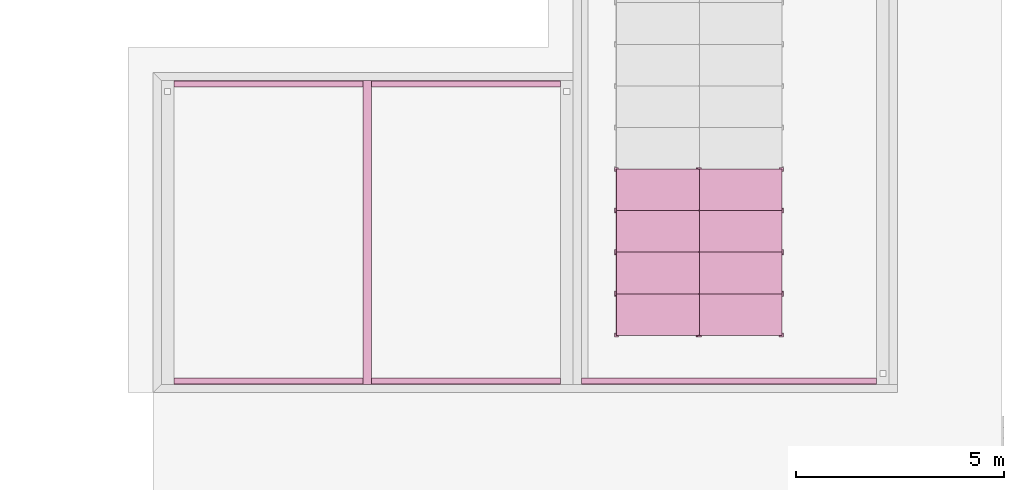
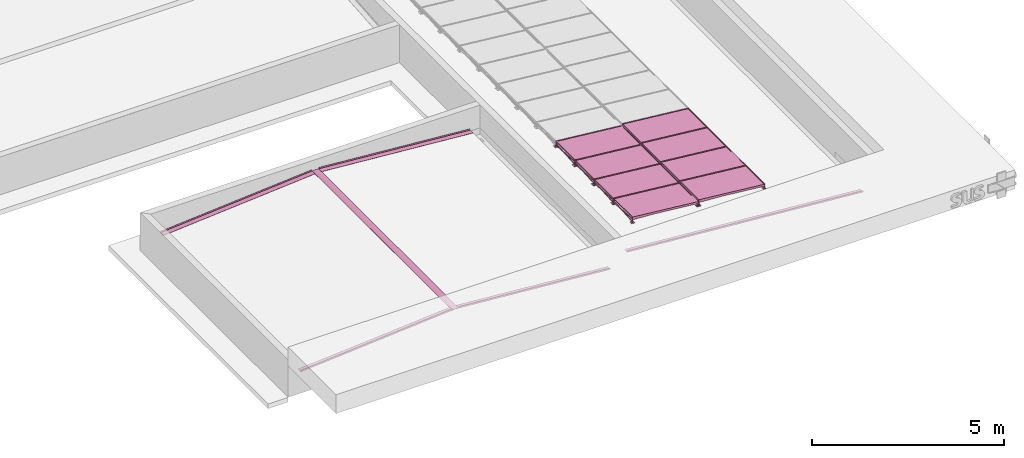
# One storey, part 3 of 5: 14 furnishings.
"""IFC2X3 building model written with IfcOpenShell, lengths in millimetres."""

from ifc_helpers import new_model, entity, si_unit, converted_unit, derived_unit, money_unit, direction, frame, origin_with_axes, place, context, subcontext, project, spatial, polyline, outline, extrude, clip, halfspace, open_shell, faceted_brep, surface_model, source, transform, mapped, material, type_object, element, save


model = new_model("IFC2X3")

# Units and contexts
model_context = context("Model", 3, precision=0.01, world=origin_with_axes(), true_north=direction((0.0, 1.0)))
body_context = subcontext(model_context, "Body", "Model", "MODEL_VIEW")
ifc_project = project(units=[si_unit("LENGTHUNIT", "METRE", prefix="MILLI"), si_unit("AREAUNIT", "SQUARE_METRE"), si_unit("VOLUMEUNIT", "CUBIC_METRE"), converted_unit("PLANEANGLEUNIT", "DEGREE", entity("IfcPlaneAngleMeasure", 0.0174532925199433), si_unit("PLANEANGLEUNIT", "RADIAN"), dimensions=[0, 0, 0, 0, 0, 0, 0]), money_unit("USD"), converted_unit("TIMEUNIT", "Year", entity("IfcTimeMeasure", 31556926.0), si_unit("TIMEUNIT", "SECOND"), dimensions=[0, 0, 1, 0, 0, 0, 0]), si_unit("MASSUNIT", "GRAM", prefix="KILO"), si_unit("THERMODYNAMICTEMPERATUREUNIT", "DEGREE_CELSIUS"), si_unit("LUMINOUSINTENSITYUNIT", "LUMEN"), si_unit("ENERGYUNIT", "JOULE", prefix="MEGA"), derived_unit("THERMALCONDUCTANCEUNIT", [(si_unit("POWERUNIT", "WATT"), 1), (si_unit("LENGTHUNIT", "METRE"), -1), (si_unit("THERMODYNAMICTEMPERATUREUNIT", "KELVIN"), -1)]), derived_unit("SPECIFICHEATCAPACITYUNIT", [(si_unit("ENERGYUNIT", "JOULE"), 1), (si_unit("MASSUNIT", "GRAM", prefix="KILO"), -1), (si_unit("THERMODYNAMICTEMPERATUREUNIT", "KELVIN"), -1)]), derived_unit("MASSDENSITYUNIT", [(si_unit("MASSUNIT", "GRAM", prefix="KILO"), 1), (si_unit("VOLUMEUNIT", "CUBIC_METRE"), -1)])], contexts=[model_context])

# Site, building, storey
site_placement = place(None, origin_with_axes())
site = spatial("IfcSite", under=ifc_project, at=site_placement, Name="Site", CompositionType="ELEMENT")
building_placement = place(site_placement, origin_with_axes())
building = spatial("IfcBuilding", under=site, at=building_placement, Name="Building", CompositionType="ELEMENT")
storey_placement = place(building_placement, frame((0.0, 0.0, 3650.0), z_axis=(0.0, 0.0, 1.0), x_axis=(1.0, 0.0, 0.0)))
storey = spatial("IfcBuildingStorey", under=building, at=storey_placement, Name="COBERTURA", CompositionType="ELEMENT", Elevation=3650.0)

# Furnishings
furnishing_element_type_1 = type_object("IfcFurnishingElementType", Name="Solar Photovoltaic Panel 26")
shared_shape = source(origin_with_axes(), body_context, "Body", "SurfaceModel", [
    faceted_brep([(0.0, -8.230649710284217, 99.4253300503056), (0.0, -10.2207240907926, 119.3260738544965), (-1000.0, -10.2207240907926, 119.3260738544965), (-1000.0, -8.230649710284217, 99.4253300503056), (0.0, 1981.84373070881, 298.4327681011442), (0.0, 1979.853656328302, 318.3335119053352), (-1000.0, 1979.853656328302, 318.3335119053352), (-1000.0, 1981.84373070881, 298.4327681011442)], [[[0, 1, 2, 3]], [[4, 5, 1, 0]], [[1, 5, 6, 2]], [[3, 2, 6, 7]], [[0, 3, 7, 4]], [[7, 6, 5, 4]]]),
    faceted_brep([(0.0, -10.2207240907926, 119.3260738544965), (0.0, -12.21079847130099, 139.2268176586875), (-1000.0, -12.21079847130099, 139.2268176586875), (-1000.0, -10.2207240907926, 119.3260738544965), (0.0, 1979.853656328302, 318.3335119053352), (0.0, 1977.863581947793, 338.2342557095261), (-1000.0, 1977.863581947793, 338.2342557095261), (-24.00000000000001, 11.67009409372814, 141.6149069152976), (-976.0, 11.67009409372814, 141.6149069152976), (-976.0, 1953.982689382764, 335.846166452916), (-24.00000000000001, 1953.982689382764, 335.846166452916), (-1000.0, 1979.853656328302, 318.3335119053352), (-24.00000000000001, 13.66016847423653, 121.7141631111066), (-24.00000000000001, 1955.972763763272, 315.9454226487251), (-976.0, 1955.972763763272, 315.9454226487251), (-976.0, 13.66016847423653, 121.7141631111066)], [[[0, 1, 2, 3]], [[4, 5, 1, 0]], [[1, 5, 6, 2], [7, 8, 9, 10]], [[3, 2, 6, 11]], [[0, 3, 11, 4], [12, 13, 14, 15]], [[11, 6, 5, 4]], [[15, 8, 7, 12]], [[14, 9, 8, 15]], [[13, 10, 9, 14]], [[12, 7, 10, 13]]]),
    faceted_brep([(-24.00000000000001, 13.41140917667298, 124.2017560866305), (-24.00000000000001, 12.91389058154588, 129.1769420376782), (-976.0, 12.91389058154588, 129.1769420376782), (-976.0, 13.41140917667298, 124.2017560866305), (-24.00000000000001, 1955.724004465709, 318.433015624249), (-24.00000000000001, 1955.226485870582, 323.4082015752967), (-976.0, 1955.226485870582, 323.4082015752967), (-976.0, 1955.724004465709, 318.433015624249)], [[[0, 1, 2, 3]], [[4, 5, 1, 0]], [[1, 5, 6, 2]], [[3, 2, 6, 7]], [[0, 3, 7, 4]], [[7, 6, 5, 4]]]),
    surface_model("IfcShellBasedSurfaceModel", [(-24.00000000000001, 13.53578882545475, 122.9579595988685), (-976.0, 13.53578882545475, 122.9579595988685), (-976.0, 1955.848384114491, 317.189219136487), (-24.00000000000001, 1955.848384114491, 317.189219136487)], [open_shell([[[0, 1, 2, 3]]])]),
    faceted_brep([(0.0, 1984.23181996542, 274.551875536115), (0.0, -5.842560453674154, 75.54443748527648), (-24.00000000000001, -5.842560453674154, 75.54443748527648), (-24.00000000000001, 1984.23181996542, 274.551875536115), (0.0, 1981.84373070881, 298.4327681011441), (0.0, -8.230649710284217, 99.4253300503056), (-24.00000000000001, -8.230649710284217, 99.4253300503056), (-24.00000000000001, 1981.84373070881, 298.4327681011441)], [[[0, 1, 2, 3]], [[4, 5, 1, 0]], [[1, 5, 6, 2]], [[3, 2, 6, 7]], [[0, 3, 7, 4]], [[7, 6, 5, 4]]]),
    faceted_brep([(-976.0, 1984.23181996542, 274.551875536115), (-976.0, -5.842560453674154, 75.54443748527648), (-1000.0, -5.842560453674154, 75.54443748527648), (-1000.0, 1984.23181996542, 274.551875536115), (-976.0, 1981.84373070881, 298.4327681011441), (-976.0, -8.230649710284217, 99.4253300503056), (-1000.0, -8.230649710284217, 99.4253300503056), (-1000.0, 1981.84373070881, 298.4327681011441)], [[[0, 1, 2, 3]], [[4, 5, 1, 0]], [[1, 5, 6, 2]], [[3, 2, 6, 7]], [[0, 3, 7, 4]], [[7, 6, 5, 4]]]),
    faceted_brep([(0.0, 16.86518774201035, 89.64131548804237), (4.99999999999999, 16.86518774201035, 89.64131548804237), (4.99999999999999, 23.52169846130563, 6.908668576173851), (-29.00000000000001, 23.52169846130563, 6.908668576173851), (-29.00000000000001, 16.86518774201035, 89.64131548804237), (-24.00000000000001, 16.86518774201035, 89.64131548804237), (-24.00000000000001, 19.75234901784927, 53.75727586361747), (0.0, 19.75234901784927, 53.75727586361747), (0.0, 12.68128001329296, 97.81738808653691), (4.99999999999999, 12.68128001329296, 97.81738808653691), (4.99999999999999, 3.941454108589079, 100.640274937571), (4.99999999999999, -4.234618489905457, 96.45636720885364), (4.99999999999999, -7.057505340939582, 87.71654130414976), (4.99999999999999, -0.4009946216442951, 4.983894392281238), (-29.00000000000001, -0.4009946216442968, 4.983894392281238), (-29.00000000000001, 3.941454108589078, 100.640274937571), (-29.00000000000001, 12.68128001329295, 97.81738808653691), (-29.00000000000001, -7.057505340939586, 87.71654130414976), (-29.00000000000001, -4.23461848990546, 96.45636720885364), (-24.00000000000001, 12.68128001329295, 97.81738808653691), (-24.00000000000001, 3.941454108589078, 100.640274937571), (-24.00000000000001, -4.23461848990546, 96.45636720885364), (-24.00000000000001, -7.057505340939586, 87.71654130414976), (-24.00000000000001, -4.170344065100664, 51.83250167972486), (0.0, -4.170344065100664, 51.83250167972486), (0.0, -7.057505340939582, 87.71654130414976), (0.0, -4.234618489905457, 96.45636720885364), (0.0, 3.941454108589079, 100.640274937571)], [[[0, 1, 2, 3, 4, 5, 6, 7]], [[8, 9, 1, 0]], [[9, 10, 11, 12, 13, 2, 1]], [[2, 13, 14, 3]], [[15, 16, 4, 3, 14, 17, 18]], [[5, 4, 16, 19]], [[5, 19, 20, 21, 22, 23, 6]], [[6, 23, 24, 7]], [[7, 24, 25, 26, 27, 8, 0]], [[27, 10, 9, 8]], [[26, 11, 10, 27]], [[25, 12, 11, 26]], [[24, 23, 22, 17, 14, 13, 12, 25]], [[19, 16, 15, 20]], [[21, 18, 17, 22]], [[20, 15, 18, 21]]]),
    faceted_brep([(37.99999999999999, -37.87759738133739, -3.04755912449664), (37.99999999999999, -38.27859200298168, 1.936335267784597), (-62.00000000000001, -38.27859200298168, 1.936335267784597), (-62.00000000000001, -37.87759738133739, -3.04755912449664), (37.99999999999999, 61.80029046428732, 4.972333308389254), (37.99999999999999, 61.39929584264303, 9.956227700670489), (-62.00000000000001, 61.39929584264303, 9.956227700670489), (-62.00000000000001, 61.80029046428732, 4.972333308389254)], [[[0, 1, 2, 3]], [[4, 5, 1, 0]], [[1, 5, 6, 2]], [[3, 2, 6, 7]], [[0, 3, 7, 4]], [[7, 6, 5, 4]]]),
    faceted_brep([(-976.0, 16.86518774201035, 89.64131548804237), (-971.0, 16.86518774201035, 89.64131548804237), (-971.0, 23.52169846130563, 6.908668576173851), (-1005.0, 23.52169846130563, 6.908668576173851), (-1005.0, 16.86518774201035, 89.64131548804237), (-1000.0, 16.86518774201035, 89.64131548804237), (-1000.0, 19.75234901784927, 53.75727586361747), (-976.0, 19.75234901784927, 53.75727586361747), (-976.0, 12.68128001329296, 97.81738808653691), (-971.0, 12.68128001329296, 97.81738808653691), (-971.0, 3.941454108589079, 100.640274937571), (-971.0, -4.234618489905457, 96.45636720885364), (-971.0, -7.057505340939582, 87.71654130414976), (-971.0, -0.4009946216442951, 4.983894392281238), (-1005.0, -0.4009946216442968, 4.983894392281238), (-1005.0, 3.941454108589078, 100.640274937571), (-1005.0, 12.68128001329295, 97.81738808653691), (-1005.0, -7.057505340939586, 87.71654130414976), (-1005.0, -4.23461848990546, 96.45636720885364), (-1000.0, 12.68128001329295, 97.81738808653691), (-1000.0, 3.941454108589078, 100.640274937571), (-1000.0, -4.23461848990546, 96.45636720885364), (-1000.0, -7.057505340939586, 87.71654130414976), (-1000.0, -4.170344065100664, 51.83250167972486), (-976.0, -4.170344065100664, 51.83250167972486), (-976.0000000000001, -7.057505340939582, 87.71654130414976), (-976.0000000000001, -4.234618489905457, 96.45636720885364), (-976.0000000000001, 3.941454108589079, 100.640274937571)], [[[0, 1, 2, 3, 4, 5, 6, 7]], [[8, 9, 1, 0]], [[9, 10, 11, 12, 13, 2, 1]], [[2, 13, 14, 3]], [[15, 16, 4, 3, 14, 17, 18]], [[5, 4, 16, 19]], [[5, 19, 20, 21, 22, 23, 6]], [[6, 23, 24, 7]], [[7, 24, 25, 26, 27, 8, 0]], [[27, 10, 9, 8]], [[26, 11, 10, 27]], [[25, 12, 11, 26]], [[24, 23, 22, 17, 14, 13, 12, 25]], [[19, 16, 15, 20]], [[21, 18, 17, 22]], [[20, 15, 18, 21]]]),
    faceted_brep([(-938.0, -37.87759738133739, -3.04755912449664), (-938.0, -38.27859200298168, 1.936335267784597), (-1038.0, -38.27859200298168, 1.936335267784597), (-1038.0, -37.87759738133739, -3.04755912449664), (-938.0, 61.80029046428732, 4.972333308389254), (-938.0, 61.39929584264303, 9.956227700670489), (-1038.0, 61.39929584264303, 9.956227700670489), (-1038.0, 61.80029046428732, 4.972333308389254)], [[[0, 1, 2, 3]], [[4, 5, 1, 0]], [[1, 5, 6, 2]], [[3, 2, 6, 7]], [[0, 3, 7, 4]], [[7, 6, 5, 4]]]),
    faceted_brep([(0.0, 1983.058675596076, 286.2606642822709), (4.99999999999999, 1983.058675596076, 286.2606642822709), (4.99999999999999, 1992.786757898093, 165.3519732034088), (-29.00000000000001, 1992.786757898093, 165.3519732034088), (-29.00000000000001, 1983.058675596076, 286.2606642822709), (-24.00000000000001, 1983.058675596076, 286.2606642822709), (-24.00000000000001, 1985.945836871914, 250.376624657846), (0.0, 1985.945836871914, 250.376624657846), (0.0, 1978.874767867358, 294.4367368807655), (4.99999999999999, 1978.874767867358, 294.4367368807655), (4.99999999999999, 1970.134941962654, 297.2596237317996), (4.99999999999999, 1961.95886936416, 293.0757160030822), (4.99999999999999, 1959.135982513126, 284.3358900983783), (4.99999999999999, 1968.864064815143, 163.4271990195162), (-29.00000000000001, 1968.864064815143, 163.4271990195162), (-29.00000000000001, 1970.134941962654, 297.2596237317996), (-29.00000000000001, 1978.874767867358, 294.4367368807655), (-29.00000000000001, 1959.135982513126, 284.3358900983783), (-29.00000000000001, 1961.95886936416, 293.0757160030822), (-24.00000000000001, 1978.874767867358, 294.4367368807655), (-24.00000000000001, 1970.134941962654, 297.2596237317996), (-24.00000000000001, 1961.95886936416, 293.0757160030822), (-24.00000000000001, 1959.135982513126, 284.3358900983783), (-24.00000000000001, 1962.023143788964, 248.4518504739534), (0.0, 1962.023143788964, 248.4518504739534), (0.0, 1959.135982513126, 284.3358900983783), (0.0, 1961.95886936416, 293.0757160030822), (0.0, 1970.134941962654, 297.2596237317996)], [[[0, 1, 2, 3, 4, 5, 6, 7]], [[8, 9, 1, 0]], [[9, 10, 11, 12, 13, 2, 1]], [[2, 13, 14, 3]], [[15, 16, 4, 3, 14, 17, 18]], [[5, 4, 16, 19]], [[5, 19, 20, 21, 22, 23, 6]], [[6, 23, 24, 7]], [[7, 24, 25, 26, 27, 8, 0]], [[27, 10, 9, 8]], [[26, 11, 10, 27]], [[25, 12, 11, 26]], [[24, 23, 22, 17, 14, 13, 12, 25]], [[19, 16, 15, 20]], [[21, 18, 17, 22]], [[20, 15, 18, 21]]]),
    faceted_brep([(37.99999999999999, 1931.38746205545, 155.3957455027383), (37.99999999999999, 1930.986467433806, 160.3796398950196), (-62.00000000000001, 1930.986467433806, 160.3796398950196), (-62.00000000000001, 1931.38746205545, 155.3957455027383), (37.99999999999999, 2031.065349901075, 163.4156379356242), (37.99999999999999, 2030.66435527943, 168.3995323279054), (-62.00000000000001, 2030.66435527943, 168.3995323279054), (-62.00000000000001, 2031.065349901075, 163.4156379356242)], [[[0, 1, 2, 3]], [[4, 5, 1, 0]], [[1, 5, 6, 2]], [[3, 2, 6, 7]], [[0, 3, 7, 4]], [[7, 6, 5, 4]]]),
    faceted_brep([(-976.0, 1983.058675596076, 286.2606642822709), (-971.0, 1983.058675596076, 286.2606642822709), (-971.0, 1992.786757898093, 165.3519732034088), (-1005.0, 1992.786757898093, 165.3519732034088), (-1005.0, 1983.058675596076, 286.2606642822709), (-1000.0, 1983.058675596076, 286.2606642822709), (-1000.0, 1985.945836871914, 250.376624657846), (-976.0, 1985.945836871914, 250.376624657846), (-976.0, 1978.874767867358, 294.4367368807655), (-971.0, 1978.874767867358, 294.4367368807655), (-971.0, 1970.134941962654, 297.2596237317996), (-971.0, 1961.95886936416, 293.0757160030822), (-971.0, 1959.135982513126, 284.3358900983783), (-971.0, 1968.864064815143, 163.4271990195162), (-1005.0, 1968.864064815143, 163.4271990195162), (-1005.0, 1970.134941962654, 297.2596237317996), (-1005.0, 1978.874767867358, 294.4367368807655), (-1005.0, 1959.135982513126, 284.3358900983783), (-1005.0, 1961.95886936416, 293.0757160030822), (-1000.0, 1978.874767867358, 294.4367368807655), (-1000.0, 1970.134941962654, 297.2596237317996), (-1000.0, 1961.95886936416, 293.0757160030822), (-1000.0, 1959.135982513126, 284.3358900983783), (-1000.0, 1962.023143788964, 248.4518504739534), (-976.0, 1962.023143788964, 248.4518504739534), (-976.0, 1959.135982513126, 284.3358900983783), (-976.0, 1961.95886936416, 293.0757160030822), (-976.0, 1970.134941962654, 297.2596237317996)], [[[0, 1, 2, 3, 4, 5, 6, 7]], [[8, 9, 1, 0]], [[9, 10, 11, 12, 13, 2, 1]], [[2, 13, 14, 3]], [[15, 16, 4, 3, 14, 17, 18]], [[5, 4, 16, 19]], [[5, 19, 20, 21, 22, 23, 6]], [[6, 23, 24, 7]], [[7, 24, 25, 26, 27, 8, 0]], [[27, 10, 9, 8]], [[26, 11, 10, 27]], [[25, 12, 11, 26]], [[24, 23, 22, 17, 14, 13, 12, 25]], [[19, 16, 15, 20]], [[21, 18, 17, 22]], [[20, 15, 18, 21]]]),
    faceted_brep([(-938.0, 1931.38746205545, 155.3957455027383), (-938.0, 1930.986467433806, 160.3796398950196), (-1038.0, 1930.986467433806, 160.3796398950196), (-1038.0, 1931.38746205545, 155.3957455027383), (-938.0, 2031.065349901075, 163.4156379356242), (-938.0, 2030.66435527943, 168.3995323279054), (-1038.0, 2030.66435527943, 168.3995323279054), (-1038.0, 2031.065349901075, 163.4156379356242)], [[[0, 1, 2, 3]], [[4, 5, 1, 0]], [[1, 5, 6, 2]], [[3, 2, 6, 7]], [[0, 3, 7, 4]], [[7, 6, 5, 4]]]),
    faceted_brep([(-24.00000000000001, 1962.189078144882, 246.3894804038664), (0.0, 1962.189078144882, 246.3894804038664), (0.0, 1296.987755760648, 205.8274691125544), (-24.00000000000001, 1296.987755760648, 205.8274691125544), (-24.00000000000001, 1960.263942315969, 270.3166683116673), (0.0, 1960.263942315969, 270.3166683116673), (0.0, 1913.152710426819, 267.4439645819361), (-24.00000000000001, 1913.152710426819, 267.4439645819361)], [[[0, 1, 2, 3]], [[1, 0, 4, 5]], [[1, 5, 6, 2]], [[2, 6, 7, 3]], [[4, 0, 3, 7]], [[5, 4, 7, 6]]]),
    faceted_brep([(-1000.0, 1962.189078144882, 246.3894804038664), (-976.0, 1962.189078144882, 246.3894804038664), (-976.0, 1296.987755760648, 205.8274691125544), (-1000.0, 1296.987755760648, 205.8274691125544), (-1000.0, 1960.263942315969, 270.3166683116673), (-976.0, 1960.263942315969, 270.3166683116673), (-976.0, 1913.152710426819, 267.4439645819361), (-1000.0, 1913.152710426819, 267.4439645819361)], [[[0, 1, 2, 3]], [[1, 0, 4, 5]], [[1, 5, 6, 2]], [[2, 6, 7, 3]], [[4, 0, 3, 7]], [[5, 4, 7, 6]]]),
    faceted_brep([(-29.00000000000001, 1974.257011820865, 246.0271140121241), (-29.00000000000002, 1972.328395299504, 269.9975628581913), (-971.0, 1977.104336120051, 210.6382014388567), (-971.0, 1979.032952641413, 186.6677525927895), (-29.00000000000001, 1986.21835836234, 246.9895011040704), (-29.00000000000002, 1984.289741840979, 270.9599499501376), (-971.0, 1989.065682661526, 211.600588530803), (-971.0, 1990.994299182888, 187.6301396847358)], [[[0, 1, 2, 3]], [[1, 0, 4, 5]], [[1, 5, 6, 2]], [[2, 6, 7, 3]], [[4, 0, 3, 7]], [[5, 4, 7, 6]]]),
    faceted_brep([(-971.0, 1960.367048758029, 269.035175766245), (-971.0, 1962.29566527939, 245.0647269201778), (-29.00000000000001, 1967.071606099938, 185.7053655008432), (-29.00000000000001, 1965.142989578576, 209.6758143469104), (-971.0, 1972.328395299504, 269.9975628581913), (-971.0, 1974.257011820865, 246.0271140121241), (-29.00000000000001, 1979.032952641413, 186.6677525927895), (-29.00000000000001, 1977.104336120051, 210.6382014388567)], [[[0, 1, 2, 3]], [[0, 4, 5, 1]], [[1, 5, 6, 2]], [[3, 2, 6, 7]], [[4, 0, 3, 7]], [[5, 4, 7, 6]]]),
])
for number, where, z_axis, x_axis, name in (
    (1, (248598.3973941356, -22543.75987612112, 651.0244237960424), (0.0, 0.0, 1.0), (0.0, 1.0, 0.0), "Painel Solar"),
    (2, (248598.3973941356, -25543.75987612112, 651.0244237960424), (0.0, 0.0, 1.0), (0.0, 1.0, 0.0), "Painel Solar"),
    (3, (250591.5851466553, -24543.75987612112, 503.5244237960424), (0.0, 0.0, 1.0), (0.0, 1.0, 0.0), "Painel Solar"),
    (4, (248598.3973941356, -24543.75987612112, 651.0244237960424), (0.0, 0.0, 1.0), (0.0, 1.0, 0.0), "Painel Solar"),
    (5, (250591.5851466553, -23543.75987612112, 503.5244237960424), (0.0, 0.0, 1.0), (0.0, 1.0, 0.0), "Painel Solar"),
    (6, (250591.5851466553, -22543.75987612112, 503.5244237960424), (0.0, 0.0, 1.0), (0.0, 1.0, 0.0), "Painel Solar"),
    (7, (248598.3973941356, -23543.75987612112, 651.0244237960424), (0.0, 0.0, 1.0), (0.0, 1.0, 0.0), "Painel Solar"),
    (8, (250591.5851466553, -25543.75987612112, 503.5244237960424), (0.0, 0.0, 1.0), (0.0, 1.0, 0.0), "Painel Solar"),
):
    element("IfcFurnishingElement", number, at=place(storey_placement, frame(where, z_axis=z_axis, x_axis=x_axis)), inside=storey, type_object=furnishing_element_type_1, Name=name, context=body_context, shape_type="MappedRepresentation", body=[
        mapped(shared_shape, transform((0.0, 0.0, 0.0))),
    ])
ifc_material = material(Name="_GRANILITE")
furnishing_element_type_2 = type_object("IfcFurnishingElementType", Name="Rufo Metálico 155 x 50")
furnishing_1_placement = place(storey_placement, frame((240524.9884955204, -27720.56501509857, 870.8935592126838), z_axis=(0.0, 0.0, 1.0), x_axis=(0.0, 1.0, 0.0)))
element("IfcFurnishingElement", 9, at=furnishing_1_placement, inside=storey, type_object=furnishing_element_type_2, material=ifc_material, Name="Rufo", context=body_context, shape_type="Clipping", body=[
    clip(clip(extrude(outline(polyline([(-155.0, 4.999999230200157), (-155.0, -7.697998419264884e-07), (0.0, -7.697998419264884e-07), (0.0, 49.99999923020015), (-4.999999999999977, 49.99999923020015), (-4.999999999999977, 4.999999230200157), (-155.0, 4.999999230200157)])), frame((0.0, 4567.544474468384, -365.779198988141), z_axis=(0.0, 0.9968087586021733, -0.07982667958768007), x_axis=(-1.0, 0.0, 0.0)), (0.0, 0.0, -1.0), 4599.721552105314), halfspace(frame((0.0, 0.0, 0.0), z_axis=(0.0, 1.0, 0.0), x_axis=(0.0, 0.0, 1.0)), True)), halfspace(frame((0.0, 4550.046218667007, 0.0), z_axis=(0.0, -1.0, 0.0), x_axis=(0.0, 0.0, -1.0)), True)),
])
furnishing_2_placement = place(storey_placement, frame((240724.9884955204, -27720.56501509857, 870.8935592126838), z_axis=(0.0, 0.0, 1.0), x_axis=(0.0, -1.0, 0.0)))
element("IfcFurnishingElement", 10, at=furnishing_2_placement, inside=storey, type_object=furnishing_element_type_2, material=ifc_material, Name="Rufo", context=body_context, shape_type="Clipping", body=[
    clip(clip(extrude(outline(polyline([(-155.0, 4.999999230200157), (-155.0, -7.697998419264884e-07), (0.0, -7.697998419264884e-07), (0.0, 49.99999923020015), (-4.999999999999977, 49.99999923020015), (-4.999999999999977, 4.999999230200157), (-155.0, 4.999999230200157)])), frame((0.0, 4567.544474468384, -365.779198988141), z_axis=(0.0, -0.9968087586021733, 0.07982667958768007), x_axis=(1.0, 0.0, 0.0)), (0.0, 0.0, 1.0), 4599.721552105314), halfspace(frame((0.0, 0.0, 0.0), z_axis=(0.0, 1.0, 0.0), x_axis=(0.0, 0.0, 1.0)), True)), halfspace(frame((0.0, 4550.046218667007, 0.0), z_axis=(0.0, -1.0, 0.0), x_axis=(0.0, 0.0, -1.0)), True)),
])
furnishing_3_placement = place(storey_placement, frame((245775.0347141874, -27720.56501509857, 872.0911882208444), z_axis=(0.0, 0.0, 1.0), x_axis=(2.244480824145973e-07, -0.9999999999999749, 0.0)))
element("IfcFurnishingElement", 11, at=furnishing_3_placement, inside=storey, type_object=furnishing_element_type_2, material=ifc_material, Name="Rufo", context=body_context, shape_type="Clipping", body=[
    clip(clip(extrude(outline(polyline([(-155.0, 4.999999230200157), (-155.0, -7.697998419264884e-07), (0.0, -7.697998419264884e-07), (0.0, 49.99999923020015), (-4.999999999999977, 49.99999923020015), (-4.999999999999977, 4.999999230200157), (-155.0, 4.999999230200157)])), frame((0.0, 7117.571411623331, -569.9910716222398), z_axis=(0.0, -0.9968087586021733, 0.07982667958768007), x_axis=(1.0, 0.0, 0.0)), (0.0, 0.0, 1.0), 7157.912293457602), halfspace(frame((0.0, 0.0, 0.0), z_axis=(0.0, 1.0, 0.0), x_axis=(0.0, 0.0, 1.0)), True)), halfspace(frame((0.0, 7100.073155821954, 0.0), z_axis=(0.0, -1.0, 0.0), x_axis=(0.0, 0.0, -1.0)), True)),
])
furnishing_4_placement = place(storey_placement, frame((240524.9884955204, -20420.56500257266, 870.8935592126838), z_axis=(0.0, 0.0, 1.0), x_axis=(-2.308176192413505e-09, 1.0, 0.0)))
element("IfcFurnishingElement", 12, at=furnishing_4_placement, inside=storey, type_object=furnishing_element_type_2, material=ifc_material, Name="Rufo", context=body_context, shape_type="Clipping", body=[
    clip(clip(extrude(outline(polyline([(-155.0, 4.999999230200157), (-155.0, -7.697998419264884e-07), (0.0, -7.697998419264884e-07), (0.0, 49.99999923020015), (-4.999999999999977, 49.99999923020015), (-4.999999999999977, 4.999999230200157), (-155.0, 4.999999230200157)])), frame((0.0, 4567.544474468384, -365.779198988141), z_axis=(0.0, -0.9968087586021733, 0.07982667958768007), x_axis=(1.0, 0.0, 0.0)), (0.0, 0.0, 1.0), 4599.721552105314), halfspace(frame((0.0, 0.0, 0.0), z_axis=(0.0, 1.0, 0.0), x_axis=(0.0, 0.0, 1.0)), True)), halfspace(frame((0.0, 4550.046218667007, 0.0), z_axis=(0.0, -1.0, 0.0), x_axis=(0.0, 0.0, -1.0)), True)),
])
furnishing_5_placement = place(storey_placement, frame((240724.9884955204, -20420.56500257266, 870.8935592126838), z_axis=(0.0, 0.0, 1.0), x_axis=(-2.308176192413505e-09, -1.0, 0.0)))
element("IfcFurnishingElement", 13, at=furnishing_5_placement, inside=storey, type_object=furnishing_element_type_2, material=ifc_material, Name="Rufo", context=body_context, shape_type="Clipping", body=[
    clip(clip(extrude(outline(polyline([(-155.0, 4.999999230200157), (-155.0, -7.697998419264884e-07), (0.0, -7.697998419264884e-07), (0.0, 49.99999923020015), (-4.999999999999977, 49.99999923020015), (-4.999999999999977, 4.999999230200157), (-155.0, 4.999999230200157)])), frame((0.0, 4567.544474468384, -365.779198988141), z_axis=(0.0, 0.9968087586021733, -0.07982667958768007), x_axis=(-1.0, 0.0, 0.0)), (0.0, 0.0, -1.0), 4599.721552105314), halfspace(frame((0.0, 0.0, 0.0), z_axis=(0.0, 1.0, 0.0), x_axis=(0.0, 0.0, 1.0)), True)), halfspace(frame((0.0, 4550.046218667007, 0.0), z_axis=(0.0, -1.0, 0.0), x_axis=(0.0, 0.0, -1.0)), True)),
])
furnishing_element_type_3 = type_object("IfcFurnishingElementType", Name="Rufo Metálico Central 10% 200 x 15")
furnishing_6_placement = place(storey_placement, frame((240624.9884955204, -20420.56500257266, 880.8935591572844), z_axis=(0.0, 0.0, 1.0), x_axis=(-1.0, 0.0, 0.0)))
element("IfcFurnishingElement", 14, at=furnishing_6_placement, inside=storey, type_object=furnishing_element_type_3, material=ifc_material, Name="Cumeeira em Fibrocimento", context=body_context, shape_type="SweptSolid", body=[
    extrude(outline(polyline([(0.0, 5.024937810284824), (-100.0, -4.975062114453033), (-100.0, -9.999999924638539), (0.0, 0.0), (100.0, -9.999999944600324), (100.0, -4.975062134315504), (0.0, 5.024937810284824)])), frame((0.0, 7300.000012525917, 0.0), z_axis=(0.0, 1.0, 0.0), x_axis=(-1.0, 0.0, 0.0)), (0.0, 0.0, -1.0), 7300.000012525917),
])

save(model, "model.ifc")
